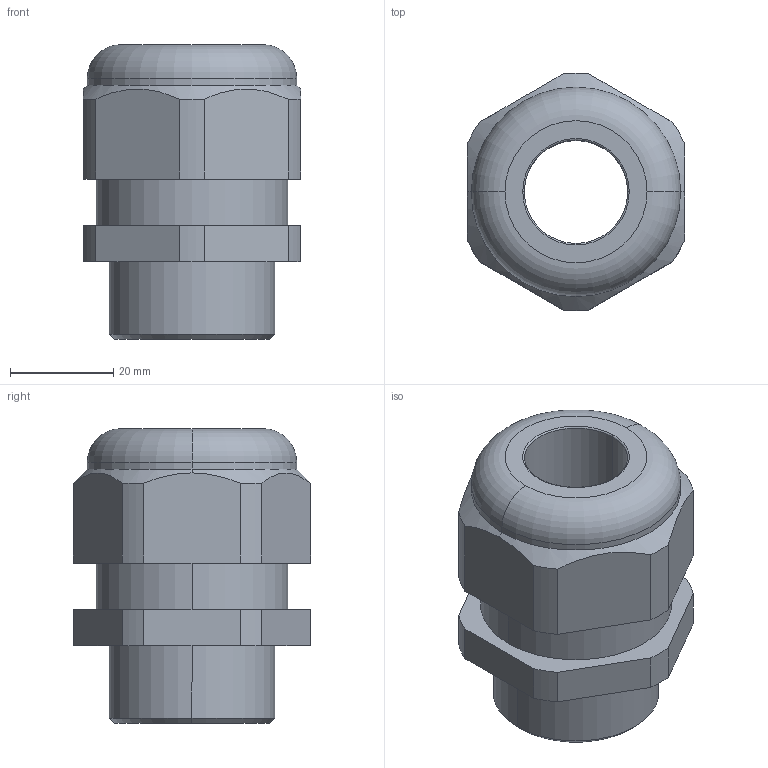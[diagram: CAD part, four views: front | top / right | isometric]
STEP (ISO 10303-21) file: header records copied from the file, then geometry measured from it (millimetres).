
FILE_DESCRIPTION (( 'STEP AP203' ), '1' );
FILE_NAME ('50029M32PAR.STEP', '2005-09-21T12:04:49', ( ' ' ), ( '' ), 'SwSTEP 2.0', 'SolidWorks 2005143', '' );
FILE_SCHEMA (( 'CONFIG_CONTROL_DESIGN' ));
Length unit declared in the file: millimetre
Products named in the file (1): 50029M32PAR
Bounding box: 42 x 45.97 x 57 mm (x, y, z)
Volume: 50594.6 mm3; surface area: 13363.5 mm2
Topology: 1 solids, 1 shells, 82 faces, 214 edges, 140 vertices
Faces by surface type: plane 54, cylinder 20, cone 4, torus 4
Entity records: 2665 total; most frequent: CARTESIAN_POINT 533, ORIENTED_EDGE 428, DIRECTION 422, EDGE_CURVE 214, LINE 156, VECTOR 156, VERTEX_POINT 140, AXIS2_PLACEMENT_3D 133
